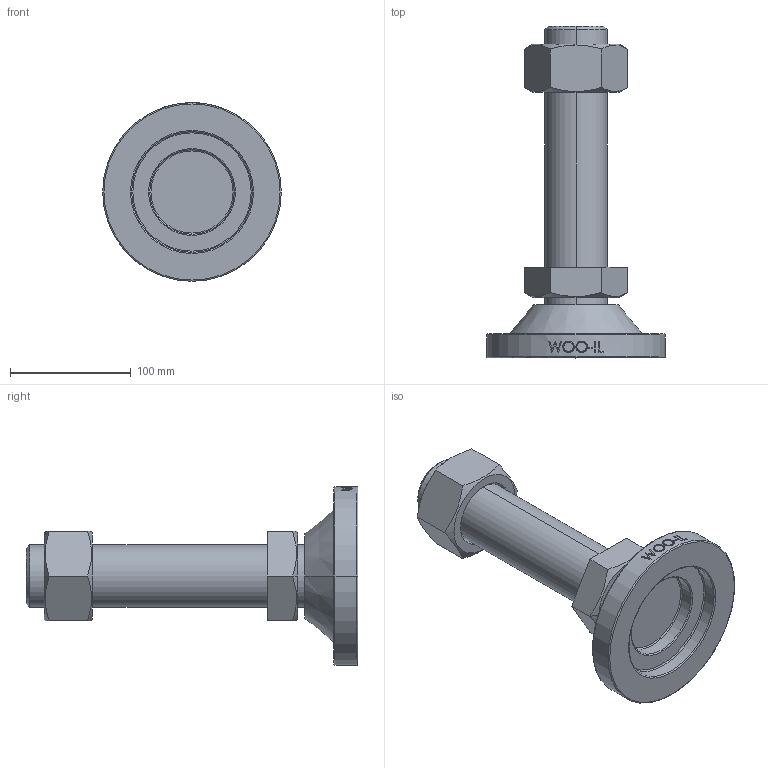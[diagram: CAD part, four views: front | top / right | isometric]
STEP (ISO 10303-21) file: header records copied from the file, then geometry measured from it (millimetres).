
FILE_DESCRIPTION (( 'STEP AP214' ), '1' );
FILE_NAME ('MFU148-M52-200.step', '2021-01-21T06:13:48', ( '' ), ( '' ), 'SwSTEP 2.0', 'SolidWorks 2019', '' );
FILE_SCHEMA (( 'AUTOMOTIVE_DESIGN' ));
Length unit declared in the file: millimetre
Products named in the file (2): MFU148-M52-200
Bounding box: 148 x 275 x 148 mm (x, y, z)
Volume: 1015406.6 mm3; surface area: 118034.7 mm2
Topology: 2 solids, 2 shells, 111 faces, 259 edges, 166 vertices
Faces by surface type: plane 49, cylinder 20, bspline 16, cone 14, torus 12
Entity records: 4805 total; most frequent: CARTESIAN_POINT 2324, ORIENTED_EDGE 518, DIRECTION 471, EDGE_CURVE 259, AXIS2_PLACEMENT_3D 185, VERTEX_POINT 166, EDGE_LOOP 127, FACE_OUTER_BOUND 111
